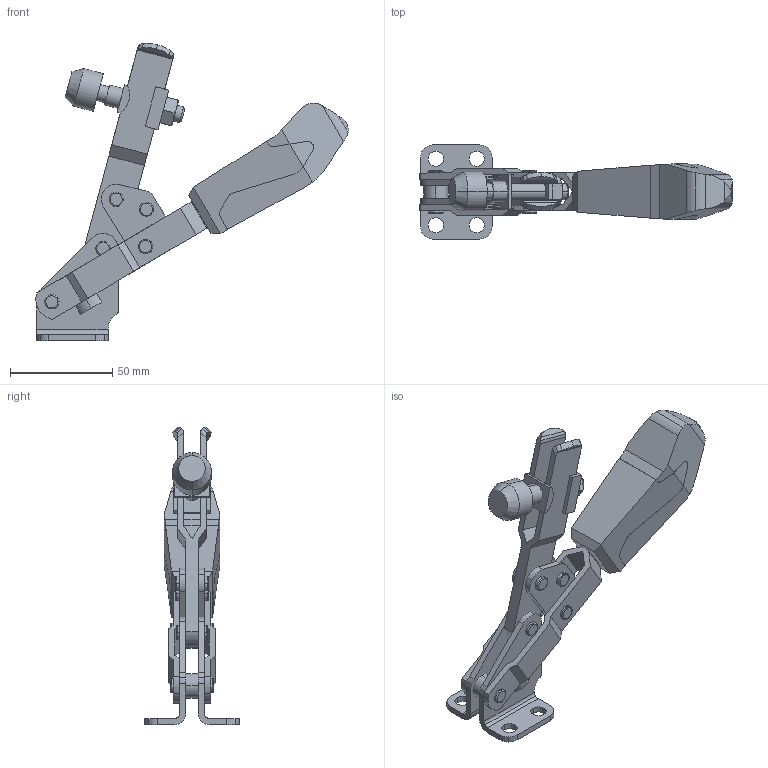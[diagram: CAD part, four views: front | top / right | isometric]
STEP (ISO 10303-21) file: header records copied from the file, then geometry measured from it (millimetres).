
FILE_DESCRIPTION(('STEP AP214'),'1');
FILE_NAME('cctmp_2D4B0AD7-6648-4538-865E-7F10E4FF0916_2019_10_11_11_6_47_763..stp','2019-10-11T09:06:48',('Meusburger Georg GmbH & Co KG'),('CADClick - www.CADClick.com'),'Spatial InterOp 3D',' ','unknown authorization');
FILE_SCHEMA(('AUTOMOTIVE_DESIGN { 1 0 10303 214 1 1 1 1 }'));
Length unit declared in the file: millimetre
Products named in the file (12): HWS 2002_3; E 90200_8; HWS 204_3
Assembly tree (11 placements, depth 3):
  HWS 204_3
    HWS 2002_3
      E 90200_8
      HWS 2002_3
      HWS 2002_3
      HWS 2002_3
      HWS 2002_3
    HWS 204_3
    HWS 204_3
    HWS 204_3
    HWS 204_3
    HWS 204_3
Bounding box: 152.75 x 46 x 145.42 mm (x, y, z)
Volume: 97919 mm3; surface area: 44174.3 mm2
Topology: 10 solids, 10 shells, 485 faces, 1251 edges, 808 vertices
Faces by surface type: cylinder 242, plane 171, torus 40, cone 32
Entity records: 19369 total; most frequent: CARTESIAN_POINT 3279, DIRECTION 2549, ORIENTED_EDGE 2502, EDGE_CURVE 1251, AXIS2_PLACEMENT_3D 998, VERTEX_POINT 808, LINE 553, VECTOR 553
